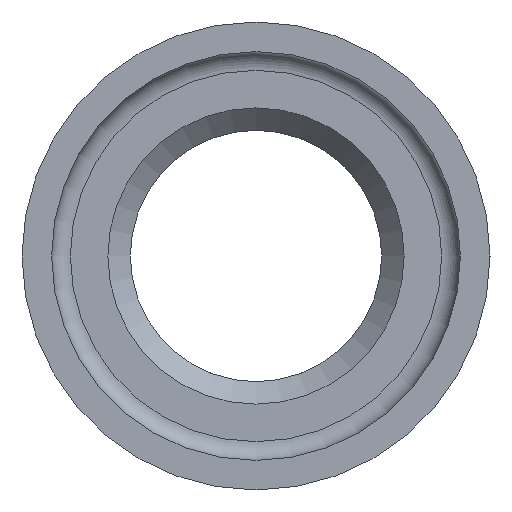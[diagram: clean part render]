
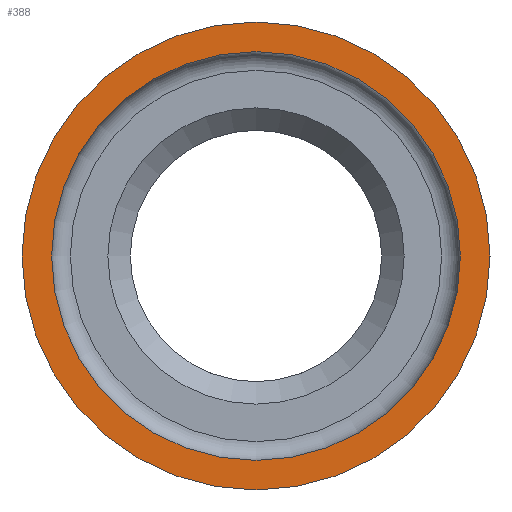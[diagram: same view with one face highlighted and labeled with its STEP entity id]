
A CAD part, left-side view. The second image highlights one B-rep face of the part: STEP entity #388.
In plain terms, the highlighted planar face has unit normal (-1, 0, 0).
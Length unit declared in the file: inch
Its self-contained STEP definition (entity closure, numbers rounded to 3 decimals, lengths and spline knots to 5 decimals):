
#22 = FACE_BOUND ( 'NONE', #501, .T. ) ;
#67 = AXIS2_PLACEMENT_3D ( 'NONE', #186, #455, #571 ) ;
#86 = DIRECTION ( 'NONE',  ( -1., 0., 0. ) ) ;
#186 = CARTESIAN_POINT ( 'NONE',  ( 0., 0., 0. ) ) ;
#226 = CIRCLE ( 'NONE', #667, 0.12477 ) ;
#253 = VERTEX_POINT ( 'NONE', #533 ) ;
#276 = EDGE_LOOP ( 'NONE', ( #638 ) ) ;
#293 = CIRCLE ( 'NONE', #67, 0.109 ) ;
#340 = PLANE ( 'NONE',  #360 ) ;
#345 = DIRECTION ( 'NONE',  ( 0., 0., -1. ) ) ;
#360 = AXIS2_PLACEMENT_3D ( 'NONE', #403, #463, #345 ) ;
#364 = VERTEX_POINT ( 'NONE', #583 ) ;
#388 = ADVANCED_FACE ( 'NONE', ( #22, #418 ), #340, .F. ) ;
#403 = CARTESIAN_POINT ( 'NONE',  ( 0., 0.12477, 0. ) ) ;
#418 = FACE_OUTER_BOUND ( 'NONE', #276, .T. ) ;
#439 = ORIENTED_EDGE ( 'NONE', *, *, #460, .F. ) ;
#455 = DIRECTION ( 'NONE',  ( -1., 0., 0. ) ) ;
#460 = EDGE_CURVE ( 'NONE', #253, #253, #293, .T. ) ;
#463 = DIRECTION ( 'NONE',  ( 1., 0., 0. ) ) ;
#480 = DIRECTION ( 'NONE',  ( 0., 0., 1. ) ) ;
#501 = EDGE_LOOP ( 'NONE', ( #439 ) ) ;
#533 = CARTESIAN_POINT ( 'NONE',  ( 0., 0., 0.109 ) ) ;
#571 = DIRECTION ( 'NONE',  ( 0., 0., 1. ) ) ;
#579 = CARTESIAN_POINT ( 'NONE',  ( 0., 0., 0. ) ) ;
#583 = CARTESIAN_POINT ( 'NONE',  ( 0., 0., 0.12477 ) ) ;
#627 = EDGE_CURVE ( 'NONE', #364, #364, #226, .T. ) ;
#638 = ORIENTED_EDGE ( 'NONE', *, *, #627, .T. ) ;
#667 = AXIS2_PLACEMENT_3D ( 'NONE', #579, #86, #480 ) ;
